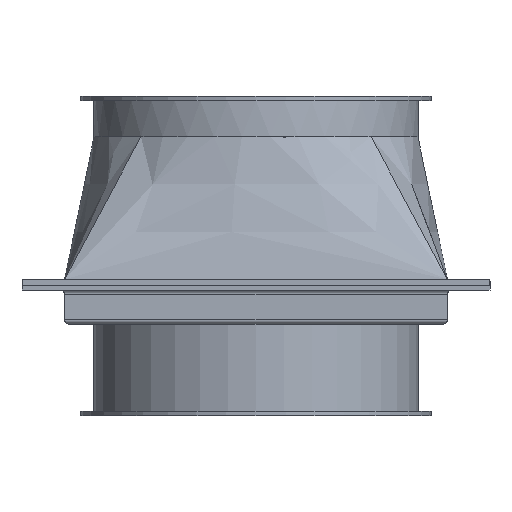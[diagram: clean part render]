
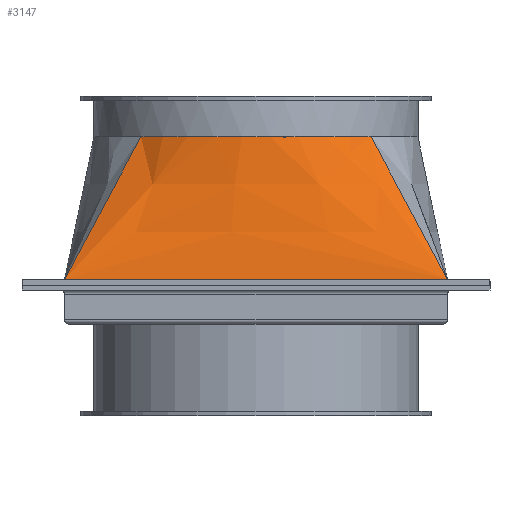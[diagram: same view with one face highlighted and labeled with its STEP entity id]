
A CAD part, left-side view. The second image highlights one B-rep face of the part: STEP entity #3147.
In plain terms, the highlighted free-form (B-spline) face has degree [3, 3] with [7, 4] control points.
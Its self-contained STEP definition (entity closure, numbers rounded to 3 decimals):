
#2414=CARTESIAN_POINT('',(0.0,0.0,0.0));
#2415=VERTEX_POINT('',#2414);
#2424=CARTESIAN_POINT('',(0.,180.0,0.0));
#2425=VERTEX_POINT('',#2424);
#2426=CARTESIAN_POINT('',(0.,180.0,0.0));
#2427=DIRECTION('',(0.0,-1.0,0.0));
#2428=VECTOR('',#2427,180.0);
#2429=LINE('',#2426,#2428);
#2430=EDGE_CURVE('',#2425,#2415,#2429,.T.);
#3079=CARTESIAN_POINT('',(-35.906,35.906,-67.0));
#3080=VERTEX_POINT('',#3079);
#3088=CARTESIAN_POINT('',(0.0,0.0,0.0));
#3089=CARTESIAN_POINT('',(-11.969,11.969,-22.333));
#3090=CARTESIAN_POINT('',(-23.938,23.938,-44.667));
#3091=CARTESIAN_POINT('',(-35.906,35.906,-67.0));
#3092=QUASI_UNIFORM_CURVE('',3,(#3088,#3089,#3090,#3091),.UNSPECIFIED.,.F.,.U.);
#3093=EDGE_CURVE('',#2415,#3080,#3092,.T.);
#3098=CARTESIAN_POINT('',(0.0,0.0,0.0));
#3099=CARTESIAN_POINT('',(0.,17.143,0.0));
#3100=CARTESIAN_POINT('',(0.,51.429,0.0));
#3101=CARTESIAN_POINT('',(0.,102.857,0.0));
#3102=CARTESIAN_POINT('',(0.,145.714,0.0));
#3103=CARTESIAN_POINT('',(0.,171.429,0.0));
#3104=CARTESIAN_POINT('',(0.,180.0,0.0));
#3105=CARTESIAN_POINT('',(-11.969,11.969,-22.333));
#3106=CARTESIAN_POINT('',(-9.27,26.092,-22.333));
#3107=CARTESIAN_POINT('',(-5.109,55.576,-22.333));
#3108=CARTESIAN_POINT('',(-3.794,101.524,-22.333));
#3109=CARTESIAN_POINT('',(-7.023,139.328,-22.333));
#3110=CARTESIAN_POINT('',(-10.622,160.966,-22.333));
#3111=CARTESIAN_POINT('',(-11.969,168.031,-22.333));
#3112=CARTESIAN_POINT('',(-23.938,23.938,-44.667));
#3113=CARTESIAN_POINT('',(-18.544,35.05,-44.667));
#3114=CARTESIAN_POINT('',(-10.218,59.722,-44.667));
#3115=CARTESIAN_POINT('',(-7.586,100.194,-44.667));
#3116=CARTESIAN_POINT('',(-14.05,132.937,-44.667));
#3117=CARTESIAN_POINT('',(-21.238,150.51,-44.667));
#3118=CARTESIAN_POINT('',(-23.938,156.062,-44.667));
#3119=CARTESIAN_POINT('',(-35.906,35.906,-67.0));
#3120=CARTESIAN_POINT('',(-27.814,43.999,-67.0));
#3121=CARTESIAN_POINT('',(-15.327,63.869,-67.));
#3122=CARTESIAN_POINT('',(-11.38,98.861,-67.));
#3123=CARTESIAN_POINT('',(-21.073,126.55,-67.));
#3124=CARTESIAN_POINT('',(-31.86,140.047,-67.0));
#3125=CARTESIAN_POINT('',(-35.906,144.094,-67.0));
#3126=B_SPLINE_SURFACE_WITH_KNOTS('',3,3,((#3098,#3105,#3112,#3119),(#3099,#3106,#3113,#3120),(#3100,#3107,#3114,#3121),(#3101,#3108,#3115,#3122),(#3102,#3109,#3116,#3123),(#3103,#3110,#3117,#3124),(#3104,#3111,#3118,#3125)),.UNSPECIFIED.,.F.,.F.,.U.,(4,1,1,1,4),(4,4),(0.0,0.286,0.571,0.857,1.0),(0.0,1.0),.UNSPECIFIED.);
#3127=ORIENTED_EDGE('',*,*,#2430,.T.);
#3128=ORIENTED_EDGE('',*,*,#3093,.T.);
#3129=CARTESIAN_POINT('',(-35.906,144.094,-67.0));
#3130=VERTEX_POINT('',#3129);
#3131=CARTESIAN_POINT('',(-90.,90.,-67.0));
#3132=DIRECTION('',(0.0,0.0,-1.0));
#3133=DIRECTION('',(1.0,0.0,0.0));
#3134=AXIS2_PLACEMENT_3D('',#3131,#3132,#3133);
#3135=CIRCLE('',#3134,76.5);
#3136=EDGE_CURVE('',#3130,#3080,#3135,.T.);
#3137=ORIENTED_EDGE('',*,*,#3136,.F.);
#3138=CARTESIAN_POINT('',(0.,180.0,0.0));
#3139=CARTESIAN_POINT('',(-11.969,168.031,-22.333));
#3140=CARTESIAN_POINT('',(-23.938,156.062,-44.667));
#3141=CARTESIAN_POINT('',(-35.906,144.094,-67.0));
#3142=QUASI_UNIFORM_CURVE('',3,(#3138,#3139,#3140,#3141),.UNSPECIFIED.,.F.,.U.);
#3143=EDGE_CURVE('',#2425,#3130,#3142,.T.);
#3144=ORIENTED_EDGE('',*,*,#3143,.F.);
#3145=EDGE_LOOP('',(#3127,#3128,#3137,#3144));
#3146=FACE_OUTER_BOUND('',#3145,.T.);
#3147=ADVANCED_FACE('',(#3146),#3126,.F.);
